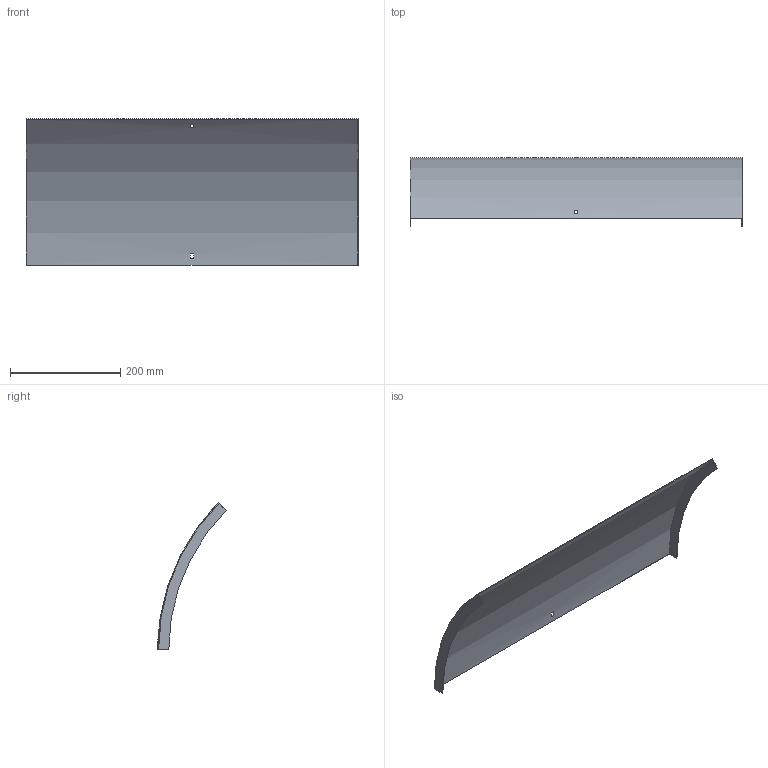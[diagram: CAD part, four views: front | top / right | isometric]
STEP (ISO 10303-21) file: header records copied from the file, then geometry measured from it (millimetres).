
FILE_DESCRIPTION (( 'STEP AP214' ), '1' );
FILE_NAME ('B2_34N3C600.step', '2025-02-21T10:36:05', ( '' ), ( '' ), 'SwSTEP 2.0', 'SolidWorks 2023', '' );
FILE_SCHEMA (( 'AUTOMOTIVE_DESIGN' ));
Length unit declared in the file: millimetre
Products named in the file (1): B2_34N3C600
Bounding box: 603 x 124.42 x 266.23 mm (x, y, z)
Volume: 282697.3 mm3; surface area: 379784.5 mm2
Topology: 1 solids, 1 shells, 18 faces, 48 edges, 32 vertices
Faces by surface type: plane 14, cylinder 4
Entity records: 599 total; most frequent: DIRECTION 102, CARTESIAN_POINT 99, ORIENTED_EDGE 96, EDGE_CURVE 48, AXIS2_PLACEMENT_3D 35, LINE 32, VECTOR 32, VERTEX_POINT 32
